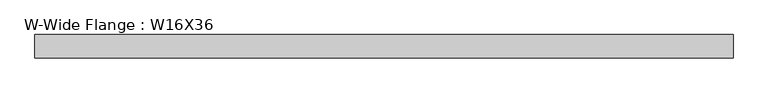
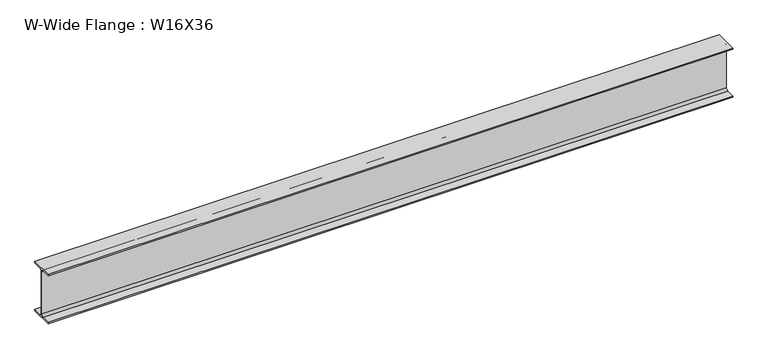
"""IFC4 building model written with IfcOpenShell, lengths in millimetres: beam geometry, W-Wide Flange : W16X36."""

from ifc_helpers import new_model, si_unit, point, frame, frame_2d, origin, place, context, project, spatial, polyline, circle_curve, trimmed, segment, composite_curve, outline, extrude, source, transform, mapped, element, save


def w_wide_flange_w16x36_fe6ed859(model_context):
    return source(origin(), model_context, "Body", "SweptSolid", [
        extrude(outline(composite_curve([segment(polyline([(88.773, -191.008), (88.773, -201.93), (-88.773, -201.93), (-88.773, -191.008), (-21.3995, -191.008)]), True, "CONTINUOUS"), segment(trimmed(circle_curve(frame_2d((-21.3995, -173.355)), 17.653), [point((-21.3995, -191.008))], [point((-3.7465, -173.355))], True, "CARTESIAN"), True, "CONTINUOUS"), segment(polyline([(-3.7465, -173.355), (-3.7465, 173.355)]), True, "CONTINUOUS"), segment(trimmed(circle_curve(frame_2d((-21.3995, 173.355)), 17.653), [point((-3.7465, 173.355))], [point((-21.3995, 191.008))], True, "CARTESIAN"), True, "CONTINUOUS"), segment(polyline([(-21.3995, 191.008), (-88.773, 191.008), (-88.773, 201.93), (88.773, 201.93), (88.773, 191.008), (21.3995, 191.008)]), True, "CONTINUOUS"), segment(trimmed(circle_curve(frame_2d((21.3995, 173.355)), 17.653), [point((21.3995, 191.008))], [point((3.7465, 173.355))], True, "CARTESIAN"), True, "CONTINUOUS"), segment(polyline([(3.7465, 173.355), (3.7465, -173.355)]), True, "CONTINUOUS"), segment(trimmed(circle_curve(frame_2d((21.3995, -173.355)), 17.653), [point((3.7465, -173.355))], [point((21.3995, -191.008))], True, "CARTESIAN"), True, "CONTINUOUS"), segment(polyline([(21.3995, -191.008), (88.773, -191.008)]), True, "CONTINUOUS")], self_intersect=False)), frame((-4026.027, 0.0, 0.0), z_axis=(1.0, 0.0, 0.0), x_axis=(0.0, 1.0, 0.0)), (0.0, 0.0, 1.0), 5308.854),
    ])


if __name__ == "__main__":
    model = new_model("IFC4")
    model_context = context("Model", 3, world=origin())
    ifc_project = project(units=[si_unit("LENGTHUNIT", "METRE", prefix="MILLI")], contexts=[model_context])
    site = spatial("IfcSite", under=ifc_project)
    building = spatial("IfcBuilding", under=site)
    placement = place(None, origin())
    w_wide_flange_w16x36_shape = w_wide_flange_w16x36_fe6ed859(model_context)
    element("IfcBeam", 1, ObjectType="W-Wide Flange : W16X36", at=placement, inside=building, context=model_context, shape_type="MappedRepresentation", body=[
        mapped(w_wide_flange_w16x36_shape, transform((0.0, 0.0, 0.0), x_axis=(1.0, 0.0, 0.0), y_axis=(0.0, 1.0, 0.0), z_axis=(0.0, 0.0, 1.0))),
    ])
    save(model, "model.ifc")
